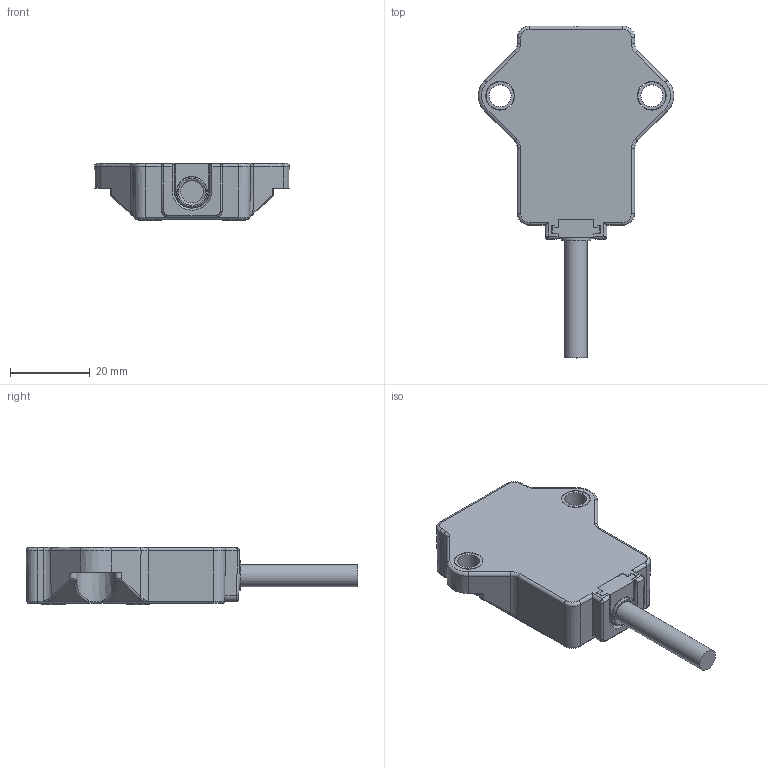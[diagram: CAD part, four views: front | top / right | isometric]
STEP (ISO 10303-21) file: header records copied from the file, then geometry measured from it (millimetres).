
FILE_DESCRIPTION (( 'STEP AP203' ), '1' );
FILE_NAME ('Ri-QR14-X2.step', '2019-05-07T16:45:54', ( '' ), ( '' ), 'SwSTEP 2.0', 'SolidWorks 2017', '' );
FILE_SCHEMA (( 'CONFIG_CONTROL_DESIGN' ));
Length unit declared in the file: millimetre
Products named in the file (1): Ri-QR14-X2
Bounding box: 48.93 x 83.19 x 14.3 mm (x, y, z)
Volume: 23570.7 mm3; surface area: 7681.8 mm2
Topology: 1 solids, 1 shells, 276 faces, 789 edges, 501 vertices
Faces by surface type: plane 121, cylinder 94, torus 24, bspline 19, cone 18
Full cylindrical faces by diameter (mm): 4.35 x2, 4.7 x2, 5 x2, 5.5 x2, 5.6 x1, 6.3 x2, 6.7 x1, 7 x2, 7.2 x2, 7.5 x1
Entity records: 9625 total; most frequent: CARTESIAN_POINT 2622, ORIENTED_EDGE 1498, DIRECTION 1391, EDGE_CURVE 749, VERTEX_POINT 487, AXIS2_PLACEMENT_3D 485, LINE 421, VECTOR 421
